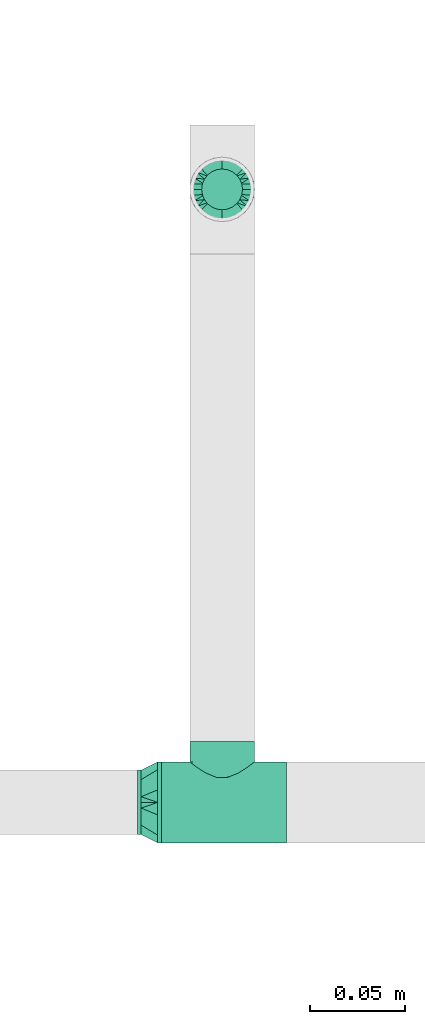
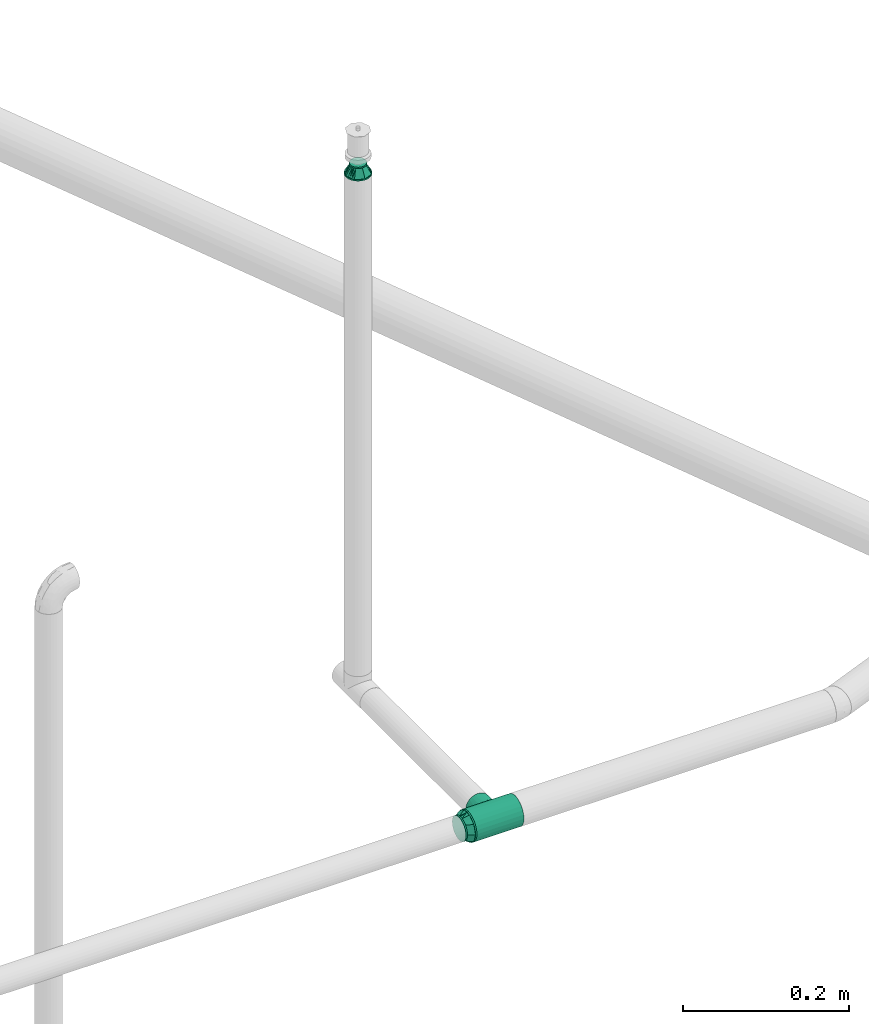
# One storey, part 33 of 94: 3 flow fittings.
"""IFC2X3 building model written with IfcOpenShell, lengths in millimetres."""

from ifc_helpers import new_model, entity, si_unit, converted_unit, derived_unit, direction, frame, origin_with_axes, place, context, subcontext, project, spatial, open_shell, surface_model, source, transform, mapped, type_object, element, save


model = new_model("IFC2X3")

# Units and contexts
model_context = context("Model", 3, precision=0.01, world=frame((0.0, 4.29681676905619e-09, 0.0)), true_north=direction((4.01073788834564e-13, 1.0)))
plan_context = context("Plan", 3, precision=0.01, world=frame((0.0, 4.29681676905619e-09, 0.0)), true_north=direction((4.01073788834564e-13, 1.0)))
body_context = subcontext(model_context, "Body", "Model", "MODEL_VIEW")
ifc_project = project(units=[converted_unit("PLANEANGLEUNIT", "DEGREE", entity("IfcPositiveLengthMeasure", 0.0174532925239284), si_unit("PLANEANGLEUNIT", "RADIAN"), dimensions=[0, 0, 0, 0, 0, 0, 0]), si_unit("AREAUNIT", "SQUARE_METRE"), si_unit("LENGTHUNIT", "METRE", prefix="MILLI"), si_unit("MASSUNIT", "GRAM", prefix="KILO"), si_unit("POWERUNIT", "WATT"), si_unit("PRESSUREUNIT", "PASCAL", prefix="KILO"), si_unit("FORCEUNIT", "NEWTON", prefix="KILO"), si_unit("ELECTRICVOLTAGEUNIT", "VOLT"), si_unit("ELECTRICCURRENTUNIT", "AMPERE"), si_unit("THERMODYNAMICTEMPERATUREUNIT", "DEGREE_CELSIUS"), si_unit("TIMEUNIT", "SECOND"), si_unit("VOLUMEUNIT", "CUBIC_METRE"), derived_unit("LINEARVELOCITYUNIT", [(si_unit("LENGTHUNIT", "METRE"), 1), (si_unit("TIMEUNIT", "SECOND"), -1)]), derived_unit("VOLUMETRICFLOWRATEUNIT", [(si_unit("VOLUMEUNIT", "CUBIC_METRE"), 1), (si_unit("TIMEUNIT", "SECOND"), -1)]), derived_unit("THERMALTRANSMITTANCEUNIT", [(si_unit("POWERUNIT", "WATT"), 1), (si_unit("THERMODYNAMICTEMPERATUREUNIT", "KELVIN"), -1), (si_unit("AREAUNIT", "SQUARE_METRE"), -1)]), derived_unit("SOUNDPRESSUREUNIT", [(si_unit("PRESSUREUNIT", "PASCAL"), 1)])], contexts=[model_context, plan_context])

# Site, building, storey
site_placement = place(None, frame((0.0, -4.29681676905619e-09, 0.0), z_axis=(0.0, 0.0, 1.0), x_axis=(1.0, 0.0, 0.0)))
site = spatial("IfcSite", under=ifc_project, at=site_placement, CompositionType="ELEMENT")
building_placement = place(site_placement, frame((0.0, 4.29681676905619e-09, 0.0), z_axis=(0.0, 0.0, 1.0), x_axis=(1.0, 0.0, 0.0)))
building = spatial("IfcBuilding", under=site, at=building_placement, Name="mc-building", CompositionType="ELEMENT")
storey_placement = place(building_placement, frame((0.0, 0.0, 210900.0), z_axis=(0.0, 0.0, 1.0), x_axis=(1.0, 0.0, 0.0)))
storey = spatial("IfcBuildingStorey", under=building, at=storey_placement, Name="Nivå F", CompositionType="ELEMENT", Elevation=210900.0)

# Flow fittings
pipe_fitting_type_1 = type_object("IfcPipeFittingType", Name="magi_pipe_fe_tee_centric_90_NOR", PredefinedType="JUNCTION")
shared_shape_1 = source(origin_with_axes(), body_context, "Body", "SurfaceModel", [
    surface_model("IfcShellBasedSurfaceModel", [(-33.8, 0.0, -21.2), (-33.8, -5.48696, -20.47763), (-33.8, 5.48696, -20.47763), (-33.8, 10.6, -18.35974), (-33.8, 14.99066, -14.99066), (-33.8, -20.47763, 5.48696), (-33.8, 18.35974, -10.6), (-33.8, 10.6, 18.35974), (-33.8, -14.99066, -14.99066), (-33.8, -18.35974, -10.6), (-33.8, -10.6, -18.35974), (-33.8, -20.47763, -5.48696), (-33.8, -21.2, 0.0), (-33.8, 18.35974, 10.6), (-33.8, 20.47763, -5.48696), (-33.8, 20.47763, 5.48696), (-33.8, 21.2, 0.0), (-33.8, 14.99066, 14.99066), (-33.8, 5.48696, 20.47763), (-33.8, 0.0, 21.2), (-33.8, -18.35974, 10.6), (-33.8, -14.99066, 14.99066), (-33.8, -10.6, 18.35974), (-33.8, -5.48696, 20.47763), (33.8, 5.48696, -20.47763), (33.8, -5.48696, -20.47763), (33.8, 0.0, -21.2), (33.8, 14.99066, -14.99066), (33.8, 10.6, -18.35974), (33.8, 18.35974, -10.6), (33.8, 20.47763, -5.48696), (33.8, -21.2, 0.0), (33.8, -10.6, -18.35974), (33.8, -18.35974, -10.6), (33.8, -14.99066, -14.99066), (33.8, -20.47763, -5.48696), (33.8, -20.47763, 5.48696), (33.8, 21.2, 0.0), (33.8, 20.47763, 5.48696), (33.8, 18.35974, 10.6), (33.8, 10.6, 18.35974), (33.8, 14.99066, 14.99066), (33.8, 0.0, 21.2), (33.8, 5.48696, 20.47763), (33.8, -14.99066, 14.99066), (33.8, -18.35974, 10.6), (33.8, -10.6, 18.35974), (33.8, -5.48696, 20.47763), (16.9, -21.2, 0.0), (15.78624, -20.32327, 6.03364), (12.81343, -18.11115, 11.01935), (8.52479, -15.37862, 14.59239), (3.07939, -13.16482, 16.61708), (-16.9, -21.2, 0.0), (-15.78686, -20.32375, 6.032), (-8.52604, -15.37932, 14.59166), (-3.0848, -13.16609, 16.61608), (-12.81602, -18.11299, 11.01634), (3.07939, -13.16482, -16.61708), (12.81343, -18.11115, -11.01935), (8.52479, -15.37862, -14.59239), (15.78624, -20.32327, -6.03364), (-3.0848, -13.16609, -16.61608), (-8.52604, -15.37932, -14.59166), (-12.81602, -18.11299, -11.01634), (-15.78686, -20.32375, -6.032), (4.37404, -31.8, -16.32415), (-16.9, -31.8, 0.0), (0.0, -31.8, -16.9), (14.63583, -31.8, -8.45), (8.45, -31.8, -14.63583), (16.32415, -31.8, -4.37404), (11.9501, -31.8, -11.9501), (-11.9501, -31.8, -11.9501), (-8.45, -31.8, -14.63583), (-4.37404, -31.8, -16.32415), (-14.63583, -31.8, -8.45), (-16.32415, -31.8, -4.37404), (16.9, -31.8, 0.0), (8.45, -31.8, 14.63583), (16.32415, -31.8, 4.37404), (14.63583, -31.8, 8.45), (-8.45, -31.8, 14.63583), (11.9501, -31.8, 11.9501), (4.37404, -31.8, 16.32415), (-16.32415, -31.8, 4.37404), (-11.9501, -31.8, 11.9501), (-14.63583, -31.8, 8.45), (0.0, -31.8, 16.9), (-4.37404, -31.8, 16.32415), (-16.34343, -20.76188, 3.016), (16.34312, -20.76163, 3.01682), (-0.00271, -13.16546, 16.61658), (16.34312, -20.76163, -3.01682), (-0.00271, -13.16546, -16.61658), (-16.34343, -20.76188, -3.016)], [open_shell([[[0, 1, 2]], [[3, 2, 4]], [[5, 2, 1]], [[4, 2, 6]], [[6, 2, 7]], [[8, 9, 10]], [[1, 10, 9]], [[9, 11, 1]], [[12, 1, 11]], [[5, 1, 12]], [[13, 14, 6]], [[13, 15, 16]], [[6, 7, 13]], [[5, 7, 2]], [[17, 13, 7]], [[18, 7, 19]], [[20, 21, 5]], [[22, 5, 21]], [[23, 19, 22]], [[7, 5, 22]], [[22, 19, 7]], [[16, 14, 13]], [[24, 25, 26]], [[27, 24, 28]], [[29, 30, 24]], [[29, 24, 27]], [[31, 24, 30]], [[32, 33, 34]], [[33, 32, 25]], [[33, 31, 35]], [[31, 33, 25]], [[25, 24, 31]], [[30, 36, 31]], [[37, 38, 39]], [[37, 39, 40]], [[37, 40, 36]], [[40, 39, 41]], [[42, 40, 43]], [[36, 44, 45]], [[44, 36, 46]], [[46, 42, 47]], [[46, 36, 40]], [[40, 42, 46]], [[37, 36, 30]], [[31, 36, 48]], [[49, 48, 36]], [[36, 45, 49]], [[45, 44, 50]], [[51, 50, 44]], [[52, 51, 44]], [[44, 46, 52]], [[45, 50, 49]], [[53, 54, 5]], [[5, 12, 53]], [[54, 20, 5]], [[55, 56, 21]], [[20, 57, 21]], [[57, 20, 54]], [[21, 57, 55]], [[56, 22, 21]], [[52, 22, 56]], [[19, 47, 42]], [[23, 46, 47]], [[18, 42, 43]], [[39, 38, 15]], [[17, 40, 41]], [[13, 41, 39]], [[43, 40, 7]], [[16, 38, 37]], [[22, 46, 23]], [[23, 47, 19]], [[18, 19, 42]], [[43, 7, 18]], [[7, 40, 17]], [[13, 17, 41]], [[15, 13, 39]], [[38, 16, 15]], [[46, 22, 52]], [[6, 30, 29]], [[14, 37, 30]], [[4, 29, 27]], [[26, 25, 1]], [[2, 28, 24]], [[0, 24, 26]], [[27, 28, 3]], [[10, 25, 32]], [[16, 37, 14]], [[14, 30, 6]], [[4, 6, 29]], [[27, 3, 4]], [[3, 28, 2]], [[0, 2, 24]], [[1, 0, 26]], [[25, 10, 1]], [[32, 58, 10]], [[34, 59, 60]], [[59, 34, 33]], [[60, 58, 34]], [[34, 58, 32]], [[35, 31, 48]], [[35, 61, 33]], [[61, 35, 48]], [[33, 61, 59]], [[62, 63, 8]], [[8, 64, 9]], [[64, 8, 63]], [[62, 8, 10]], [[65, 53, 11]], [[65, 11, 9]], [[11, 53, 12]], [[65, 9, 64]], [[58, 62, 10]], [[66, 67, 68]], [[69, 66, 70]], [[69, 71, 66]], [[69, 70, 72]], [[67, 66, 71]], [[68, 73, 74]], [[74, 75, 68]], [[76, 67, 77]], [[73, 68, 76]], [[67, 76, 68]], [[71, 78, 67]], [[79, 78, 80]], [[79, 80, 81]], [[82, 67, 79]], [[79, 81, 83]], [[82, 79, 84]], [[85, 86, 87]], [[86, 85, 82]], [[82, 88, 89]], [[85, 67, 82]], [[84, 88, 82]], [[79, 67, 78]], [[85, 90, 67]], [[57, 87, 86]], [[85, 87, 54]], [[86, 82, 55]], [[85, 54, 90]], [[90, 53, 67]], [[54, 87, 57]], [[91, 49, 80]], [[55, 89, 56]], [[55, 57, 86]], [[88, 52, 92]], [[55, 82, 89]], [[52, 88, 84]], [[79, 51, 84]], [[50, 83, 81]], [[83, 51, 79]], [[81, 80, 49]], [[83, 50, 51]], [[51, 52, 84]], [[78, 91, 80]], [[49, 50, 81]], [[91, 78, 48]], [[88, 56, 89]], [[92, 56, 88]], [[71, 93, 78]], [[59, 69, 72]], [[71, 69, 61]], [[72, 70, 60]], [[93, 48, 78]], [[61, 69, 59]], [[60, 66, 58]], [[60, 59, 72]], [[68, 62, 94]], [[60, 70, 66]], [[95, 67, 53]], [[95, 65, 77]], [[71, 61, 93]], [[75, 62, 68]], [[65, 76, 77]], [[73, 76, 64]], [[68, 58, 66]], [[75, 63, 62]], [[63, 75, 74]], [[74, 73, 63]], [[63, 73, 64]], [[64, 76, 65]], [[67, 95, 77]], [[94, 58, 68]]])]),
])
flow_fitting_1_placement = place(storey_placement, frame((719215.77033, 437906.03424, 3600.0), z_axis=(0.0, 0.0, -1.0), x_axis=(1.0, 0.0, 0.0)))
element("IfcFlowFitting", 1, at=flow_fitting_1_placement, inside=storey, type_object=pipe_fitting_type_1, Name="magi_pipe_fe_tee_centric_90_NOR", context=body_context, shape_type="MappedRepresentation", body=[
    mapped(shared_shape_1, transform((0.0, 0.0, 0.0), scale=1.0)),
])
pipe_fitting_type_2 = type_object("IfcPipeFittingType", Name="magi_pipe_fe_reducer_centric_short_NOR", PredefinedType="TRANSITION")
shared_shape_2 = source(origin_with_axes(), body_context, "Body", "SurfaceModel", [
    surface_model("IfcShellBasedSurfaceModel", [(-2.0, -10.6, -18.35974), (-2.0, 0.0, -21.2), (-2.0, -5.48696, -20.47763), (-2.0, 5.48696, -20.47763), (-2.0, 10.6, -18.35974), (8.6, -11.9501, -11.9501), (8.6, -11.9501, 11.9501), (8.6, -16.9, 0.0), (8.6, 11.9501, -11.9501), (8.6, 16.9, 0.0), (8.6, 0.0, -16.9), (0.0, 17.15116, 12.46105), (0.0, 6.55116, -20.1624), (0.0, -21.2, 0.0), (0.0, -6.55116, -20.1624), (0.0, -17.15116, -12.46105), (8.6, 2.98753, -15.66253), (0.0, 0.0, -20.1624), (0.0, -11.85116, -16.31172), (8.6, -2.98753, -15.66253), (8.6, 8.96258, -13.18758), (8.6, 5.97505, -14.42505), (0.0, 11.85116, -16.31172), (8.6, -5.97505, -14.42505), (8.6, -13.18758, -8.96258), (8.6, -8.96258, -13.18758), (0.0, -6.55116, 20.1624), (8.6, -2.98753, 15.66253), (0.0, 0.0, 20.1624), (8.6, 11.9501, 11.9501), (0.0, 11.85116, 16.31172), (8.6, 2.98753, 15.66253), (0.0, 6.55116, 20.1624), (8.6, -8.96258, 13.18758), (8.6, -5.97505, 14.42505), (0.0, -11.85116, 16.31172), (8.6, 5.97505, 14.42505), (8.6, 13.18758, 8.96258), (8.6, 8.96258, 13.18758), (10.6, 4.37404, -16.32415), (10.6, 8.45, -14.63583), (10.6, 11.9501, -11.9501), (10.6, -8.45, -14.63583), (10.6, 16.32415, -4.37404), (10.6, 16.32415, 4.37404), (10.6, 14.63583, -8.45), (10.6, 0.0, -16.9), (10.6, -4.37404, -16.32415), (10.6, -11.9501, -11.9501), (10.6, -16.32415, -4.37404), (10.6, -14.63583, -8.45), (10.6, -16.32415, 4.37404), (10.6, 16.9, 0.0), (10.6, 14.63583, 8.45), (10.6, 11.9501, 11.9501), (10.6, 4.37404, 16.32415), (10.6, 8.45, 14.63583), (10.6, 0.0, 16.9), (10.6, -14.63583, 8.45), (10.6, -16.9, 0.0), (10.6, -8.45, 14.63583), (10.6, -11.9501, 11.9501), (10.6, -4.37404, 16.32415), (8.6, 4.37404, 16.32415), (8.6, -14.63583, 8.45), (8.6, 0.0, 16.9), (8.6, 16.32415, 4.37404), (8.6, 8.45, 14.63583), (8.6, 14.63583, 8.45), (8.6, -8.45, 14.63583), (8.6, -4.37404, 16.32415), (8.6, -16.32415, 4.37404), (8.6, -16.32415, -4.37404), (8.6, -8.45, -14.63583), (8.6, 16.32415, -4.37404), (8.6, 14.63583, -8.45), (8.6, 8.45, -14.63583), (8.6, 4.37404, -16.32415), (8.6, -14.63583, -8.45), (8.6, -4.37404, -16.32415), (-2.0, 0.0, 21.2), (-2.0, 5.48696, 20.47763), (-2.0, 10.6, 18.35974), (-2.0, 14.99066, 14.99066), (-2.0, 18.35974, 10.6), (-2.0, 20.47763, 5.48696), (-2.0, -21.2, 0.0), (-2.0, -14.99066, -14.99066), (-2.0, -5.48696, 20.47763), (-2.0, -14.99066, 14.99066), (-2.0, -10.6, 18.35974), (-2.0, -18.35974, 10.6), (-2.0, -20.47763, 5.48696), (-2.0, 20.47763, -5.48696), (-2.0, 14.99066, -14.99066), (-2.0, 18.35974, -10.6), (-2.0, -18.35974, -10.6), (-2.0, -20.47763, -5.48696), (-2.0, 21.2, 0.0), (0.0, 10.6, -18.35974), (0.0, 0.0, -21.2), (0.0, 5.48696, -20.47763), (0.0, 20.47763, -5.48696), (0.0, 14.99066, -14.99066), (0.0, -14.99066, -14.99066), (0.0, 18.35974, -10.6), (0.0, -10.6, -18.35974), (0.0, -5.48696, -20.47763), (0.0, -18.35974, -10.6), (0.0, -20.47763, -5.48696), (0.0, -18.35974, 10.6), (0.0, 21.2, 0.0), (0.0, 20.47763, 5.48696), (0.0, 18.35974, 10.6), (0.0, 14.99066, 14.99066), (0.0, 0.0, 21.2), (0.0, 10.6, 18.35974), (0.0, 5.48696, 20.47763), (0.0, -14.99066, 14.99066), (0.0, -20.47763, 5.48696), (0.0, -5.48696, 20.47763), (0.0, -10.6, 18.35974), (0.0, -17.15116, 12.46105), (0.0, 17.15116, -12.46105), (0.0, 14.50116, -14.38638), (8.6, -14.42505, -5.97505), (0.0, -19.17558, -6.23052), (0.0, -18.16337, -9.34579), (8.6, 14.42505, -5.97505), (0.0, 19.17558, -6.23052), (8.6, 13.18758, -8.96258), (8.6, 15.66253, -2.98753), (8.6, -15.66253, -2.98753), (0.0, -14.50116, 14.38638), (8.6, 14.42505, 5.97505), (0.0, 19.17558, 6.23052), (0.0, 18.16337, 9.34579), (8.6, -14.42505, 5.97505), (0.0, -19.17558, 6.23052), (8.6, -13.18758, 8.96258), (8.6, -15.66253, 2.98753), (8.6, 15.66253, 2.98753)], [open_shell([[[0, 1, 2]], [[3, 1, 4]], [[5, 6, 7]], [[8, 9, 10]], [[11, 12, 13]], [[13, 12, 14]], [[13, 14, 15]], [[12, 16, 17]], [[5, 15, 18]], [[17, 19, 14]], [[20, 21, 22]], [[19, 23, 14]], [[12, 21, 16]], [[15, 5, 24]], [[25, 5, 18]], [[22, 8, 20]], [[26, 27, 28]], [[29, 11, 30]], [[28, 31, 32]], [[33, 34, 35]], [[31, 36, 32]], [[26, 34, 27]], [[11, 29, 37]], [[38, 29, 30]], [[35, 6, 33]], [[39, 40, 41]], [[42, 39, 41]], [[41, 43, 44]], [[43, 41, 45]], [[41, 44, 42]], [[46, 42, 47]], [[46, 39, 42]], [[48, 49, 50]], [[49, 48, 42]], [[42, 51, 49]], [[44, 43, 52]], [[44, 53, 54]], [[44, 54, 55]], [[55, 51, 42]], [[55, 54, 56]], [[51, 55, 57]], [[57, 58, 51]], [[59, 49, 51]], [[58, 60, 61]], [[58, 57, 60]], [[60, 57, 62]], [[42, 44, 55]], [[63, 64, 65]], [[66, 63, 67]], [[29, 68, 66]], [[29, 66, 67]], [[64, 63, 66]], [[69, 64, 6]], [[69, 70, 65]], [[65, 64, 69]], [[71, 64, 66]], [[71, 72, 7]], [[71, 66, 73]], [[66, 74, 8]], [[8, 74, 75]], [[8, 76, 77]], [[73, 66, 8]], [[77, 10, 8]], [[72, 5, 78]], [[5, 72, 73]], [[73, 10, 79]], [[72, 71, 73]], [[8, 10, 73]], [[74, 66, 9]], [[72, 49, 7]], [[78, 50, 72]], [[42, 5, 73]], [[78, 5, 48]], [[47, 73, 79]], [[72, 50, 49]], [[49, 59, 7]], [[47, 42, 73]], [[48, 5, 42]], [[48, 50, 78]], [[46, 47, 79]], [[79, 10, 46]], [[77, 39, 10]], [[76, 40, 77]], [[45, 8, 75]], [[76, 8, 41]], [[43, 75, 74]], [[76, 41, 40]], [[40, 39, 77]], [[52, 43, 74]], [[45, 75, 43]], [[45, 41, 8]], [[9, 52, 74]], [[10, 39, 46]], [[66, 44, 9]], [[68, 53, 66]], [[56, 29, 67]], [[68, 29, 54]], [[55, 67, 63]], [[66, 53, 44]], [[44, 52, 9]], [[55, 56, 67]], [[54, 29, 56]], [[54, 53, 68]], [[57, 55, 63]], [[63, 65, 57]], [[70, 62, 65]], [[69, 60, 70]], [[58, 6, 64]], [[69, 6, 61]], [[51, 64, 71]], [[69, 61, 60]], [[60, 62, 70]], [[59, 51, 71]], [[58, 64, 51]], [[58, 61, 6]], [[7, 59, 71]], [[65, 62, 57]], [[80, 81, 82]], [[80, 82, 83]], [[83, 84, 85]], [[83, 85, 80]], [[86, 80, 87]], [[88, 89, 90]], [[88, 80, 89]], [[91, 86, 92]], [[89, 80, 91]], [[80, 86, 91]], [[80, 85, 87]], [[85, 93, 4]], [[94, 93, 95]], [[87, 85, 4]], [[4, 93, 94]], [[86, 96, 97]], [[87, 96, 86]], [[0, 87, 4]], [[1, 0, 4]], [[93, 85, 98]], [[99, 100, 101]], [[102, 99, 103]], [[13, 104, 99]], [[102, 103, 105]], [[102, 13, 99]], [[100, 106, 107]], [[100, 99, 106]], [[108, 13, 109]], [[106, 99, 104]], [[108, 104, 13]], [[110, 102, 111]], [[112, 113, 114]], [[112, 114, 115]], [[116, 117, 115]], [[116, 115, 114]], [[112, 115, 118]], [[13, 110, 119]], [[102, 110, 13]], [[118, 120, 121]], [[110, 112, 118]], [[115, 120, 118]], [[110, 111, 112]], [[97, 109, 86]], [[96, 108, 97]], [[106, 87, 0]], [[96, 87, 104]], [[107, 0, 2]], [[97, 108, 109]], [[109, 13, 86]], [[107, 106, 0]], [[104, 87, 106]], [[104, 108, 96]], [[100, 107, 2]], [[2, 1, 100]], [[3, 101, 1]], [[4, 99, 3]], [[105, 94, 95]], [[4, 94, 103]], [[102, 95, 93]], [[4, 103, 99]], [[99, 101, 3]], [[111, 102, 93]], [[105, 95, 102]], [[105, 103, 94]], [[98, 111, 93]], [[1, 101, 100]], [[85, 112, 98]], [[84, 113, 85]], [[116, 83, 82]], [[84, 83, 114]], [[117, 82, 81]], [[85, 113, 112]], [[112, 111, 98]], [[117, 116, 82]], [[114, 83, 116]], [[114, 113, 84]], [[115, 117, 81]], [[81, 80, 115]], [[88, 120, 80]], [[90, 121, 88]], [[110, 89, 91]], [[90, 89, 118]], [[119, 91, 92]], [[90, 118, 121]], [[121, 120, 88]], [[13, 119, 92]], [[110, 91, 119]], [[110, 118, 89]], [[86, 13, 92]], [[80, 120, 115]], [[65, 6, 29]], [[9, 29, 6]], [[6, 10, 9]], [[10, 6, 5]], [[32, 11, 122]], [[32, 122, 26]], [[122, 11, 13]], [[12, 11, 123]], [[123, 11, 111]], [[8, 22, 124]], [[125, 126, 127]], [[22, 21, 12]], [[8, 124, 123]], [[128, 123, 129]], [[17, 16, 10]], [[123, 128, 130]], [[111, 131, 129]], [[13, 132, 7]], [[18, 23, 25]], [[13, 126, 132]], [[19, 17, 10]], [[131, 111, 9]], [[125, 132, 126]], [[15, 24, 127]], [[24, 125, 127]], [[8, 123, 130]], [[23, 18, 14]], [[131, 128, 129]], [[6, 35, 133]], [[134, 135, 136]], [[35, 34, 26]], [[6, 133, 122]], [[137, 122, 138]], [[28, 27, 65]], [[122, 137, 139]], [[13, 140, 138]], [[111, 141, 9]], [[30, 36, 38]], [[111, 135, 141]], [[31, 28, 65]], [[140, 13, 7]], [[134, 141, 135]], [[11, 37, 136]], [[37, 134, 136]], [[6, 122, 139]], [[36, 30, 32]], [[140, 137, 138]]])]),
])
flow_fitting_2_placement = place(storey_placement, frame((719181.97033, 437906.03424, 3600.0), z_axis=(0.0, 0.0, 1.0), x_axis=(-1.0, 0.0, 0.0)))
element("IfcFlowFitting", 2, at=flow_fitting_2_placement, inside=storey, type_object=pipe_fitting_type_2, Name="magi_pipe_fe_reducer_centric_short_NOR", context=body_context, shape_type="MappedRepresentation", body=[
    mapped(shared_shape_2, transform((0.0, 0.0, 0.0), scale=1.0)),
])
shared_shape_3 = source(origin_with_axes(), body_context, "Body", "SurfaceModel", [
    surface_model("IfcShellBasedSurfaceModel", [(14.4, 5.35, -9.26647), (14.4, 0.0, -10.7), (14.4, 2.76936, -10.33541), (14.4, 10.33541, -2.76936), (14.4, 7.56604, -7.56604), (14.4, -10.33541, -2.76936), (14.4, 9.26647, -5.35), (14.4, 0.0, 10.7), (14.4, -5.35, -9.26647), (14.4, -2.76936, -10.33541), (14.4, -7.56604, -7.56604), (14.4, -9.26647, -5.35), (14.4, 10.7, 0.0), (14.4, 10.33541, 2.76936), (14.4, 9.26647, 5.35), (14.4, 7.56604, 7.56604), (14.4, 2.76936, 10.33541), (14.4, 5.35, 9.26647), (14.4, -10.33541, 2.76936), (14.4, -7.56604, 7.56604), (14.4, -9.26647, 5.35), (14.4, -10.7, 0.0), (14.4, -2.76936, 10.33541), (14.4, -5.35, 9.26647), (12.4, 2.76936, 10.33541), (12.4, -10.33541, -2.76936), (12.4, 0.0, 10.7), (12.4, 5.35, 9.26647), (12.4, 7.56604, 7.56604), (12.4, 9.26647, 5.35), (12.4, 10.33541, 2.76936), (12.4, -10.33541, 2.76936), (12.4, -2.76936, 10.33541), (12.4, -7.56604, 7.56604), (12.4, -5.35, 9.26647), (12.4, -9.26647, 5.35), (12.4, -10.7, 0.0), (12.4, 10.33541, -2.76936), (12.4, 5.35, -9.26647), (12.4, 9.26647, -5.35), (12.4, 7.56604, -7.56604), (12.4, 2.76936, -10.33541), (12.4, -9.26647, -5.35), (12.4, -5.35, -9.26647), (12.4, -7.56604, -7.56604), (12.4, 0.0, -10.7), (12.4, -2.76936, -10.33541), (12.4, 10.7, 0.0), (-2.0, 11.9501, 11.9501), (-2.0, 0.0, 16.9), (-2.0, 4.37404, 16.32415), (-2.0, 8.45, 14.63583), (-2.0, 14.63583, 8.45), (-2.0, 16.32415, 4.37404), (-2.0, -16.32415, 4.37404), (-2.0, -8.45, 14.63583), (-2.0, -14.63583, 8.45), (-2.0, -11.9501, 11.9501), (-2.0, -4.37404, 16.32415), (-2.0, -16.32415, -4.37404), (-2.0, -16.9, 0.0), (-2.0, -8.45, -14.63583), (-2.0, 16.32415, -4.37404), (-2.0, 11.9501, -11.9501), (-2.0, 14.63583, -8.45), (-2.0, 8.45, -14.63583), (-2.0, 4.37404, -16.32415), (-2.0, 0.0, -16.9), (-2.0, -11.9501, -11.9501), (-2.0, -14.63583, -8.45), (-2.0, -4.37404, -16.32415), (-2.0, 16.9, 0.0), (0.0, 4.37404, -16.32415), (0.0, 8.45, -14.63583), (0.0, 11.9501, -11.9501), (0.0, 0.0, -16.9), (0.0, 16.32415, -4.37404), (0.0, 16.32415, 4.37404), (0.0, 14.63583, -8.45), (0.0, -8.45, -14.63583), (0.0, -4.37404, -16.32415), (0.0, -11.9501, -11.9501), (0.0, -16.32415, -4.37404), (0.0, -14.63583, -8.45), (0.0, -16.32415, 4.37404), (0.0, 16.9, 0.0), (0.0, 14.63583, 8.45), (0.0, 11.9501, 11.9501), (0.0, 4.37404, 16.32415), (0.0, 8.45, 14.63583), (0.0, 0.0, 16.9), (0.0, -14.63583, 8.45), (0.0, -16.9, 0.0), (0.0, -8.45, 14.63583), (0.0, -11.9501, 11.9501), (0.0, -4.37404, 16.32415), (12.4, 9.3625, -2.31662), (0.0, 14.42505, -5.97505), (0.0, 15.66253, -2.98753), (12.4, -6.6875, -6.94985), (0.0, -13.18758, -8.96258), (0.0, 2.98753, -15.66253), (12.4, 0.0, -9.26647), (12.4, 6.6875, -6.94985), (0.0, 8.96258, -13.18758), (12.4, -9.3625, -2.31662), (0.0, -15.66253, -2.98753), (0.0, -14.42505, -5.97505), (0.0, 5.97505, -14.42505), (0.0, -2.98753, -15.66253), (0.0, -8.96258, -13.18758), (0.0, 13.18758, -8.96258), (12.4, 8.025, -4.63324), (12.4, -2.675, -9.26647), (12.4, 2.675, -9.26647), (0.0, -5.97505, -14.42505), (12.4, -8.025, -4.63324), (12.4, -9.3625, 2.31662), (0.0, -14.42505, 5.97505), (0.0, -15.66253, 2.98753), (12.4, 6.6875, 6.94985), (0.0, 13.18758, 8.96258), (0.0, -2.98753, 15.66253), (12.4, 0.0, 9.26647), (12.4, -6.6875, 6.94985), (0.0, -8.96258, 13.18758), (12.4, 9.3625, 2.31662), (0.0, 15.66253, 2.98753), (0.0, 14.42505, 5.97505), (0.0, -5.97505, 14.42505), (0.0, 2.98753, 15.66253), (0.0, 8.96258, 13.18758), (0.0, -13.18758, 8.96258), (12.4, -8.025, 4.63324), (12.4, 2.675, 9.26647), (12.4, -2.675, 9.26647), (0.0, 5.97505, 14.42505), (12.4, 8.025, 4.63324)], [open_shell([[[0, 1, 2]], [[3, 0, 4]], [[5, 0, 3]], [[3, 4, 6]], [[7, 5, 3]], [[1, 8, 9]], [[1, 0, 8]], [[10, 5, 11]], [[5, 10, 8]], [[0, 5, 8]], [[3, 12, 13]], [[13, 14, 15]], [[13, 15, 16]], [[7, 3, 16]], [[16, 15, 17]], [[7, 18, 5]], [[18, 19, 20]], [[21, 5, 18]], [[19, 22, 23]], [[22, 19, 18]], [[7, 22, 18]], [[13, 16, 3]], [[24, 25, 26]], [[27, 25, 24]], [[28, 29, 30]], [[28, 25, 27]], [[31, 26, 25]], [[32, 33, 34]], [[33, 32, 31]], [[33, 31, 35]], [[32, 26, 31]], [[31, 25, 36]], [[30, 37, 28]], [[25, 28, 37]], [[38, 37, 39]], [[37, 38, 25]], [[38, 39, 40]], [[41, 25, 38]], [[42, 43, 44]], [[43, 42, 25]], [[43, 45, 46]], [[43, 25, 41]], [[41, 45, 43]], [[37, 30, 47]], [[25, 5, 36]], [[42, 11, 25]], [[8, 44, 43]], [[42, 44, 10]], [[9, 43, 46]], [[25, 11, 5]], [[5, 21, 36]], [[9, 8, 43]], [[10, 44, 8]], [[10, 11, 42]], [[1, 9, 46]], [[46, 45, 1]], [[41, 2, 45]], [[38, 0, 41]], [[6, 40, 39]], [[38, 40, 4]], [[3, 39, 37]], [[38, 4, 0]], [[0, 2, 41]], [[12, 3, 37]], [[6, 39, 3]], [[6, 4, 40]], [[47, 12, 37]], [[45, 2, 1]], [[30, 13, 47]], [[29, 14, 30]], [[17, 28, 27]], [[29, 28, 15]], [[16, 27, 24]], [[30, 14, 13]], [[13, 12, 47]], [[16, 17, 27]], [[15, 28, 17]], [[15, 14, 29]], [[7, 16, 24]], [[24, 26, 7]], [[32, 22, 26]], [[34, 23, 32]], [[20, 33, 35]], [[34, 33, 19]], [[18, 35, 31]], [[34, 19, 23]], [[23, 22, 32]], [[21, 18, 31]], [[20, 35, 18]], [[20, 19, 33]], [[36, 21, 31]], [[26, 22, 7]], [[48, 49, 50]], [[48, 50, 51]], [[48, 52, 53]], [[48, 53, 49]], [[49, 53, 54]], [[55, 56, 57]], [[55, 58, 49]], [[56, 55, 49]], [[49, 54, 56]], [[54, 59, 60]], [[54, 53, 61]], [[53, 62, 63]], [[63, 62, 64]], [[63, 65, 66]], [[61, 53, 63]], [[67, 63, 66]], [[59, 68, 69]], [[68, 59, 61]], [[61, 67, 70]], [[59, 54, 61]], [[63, 67, 61]], [[53, 71, 62]], [[72, 73, 74]], [[75, 72, 74]], [[74, 76, 77]], [[76, 74, 78]], [[74, 77, 79]], [[75, 79, 80]], [[75, 74, 79]], [[81, 82, 83]], [[82, 81, 79]], [[79, 84, 82]], [[77, 76, 85]], [[77, 86, 87]], [[77, 87, 88]], [[88, 84, 79]], [[88, 87, 89]], [[84, 88, 90]], [[90, 91, 84]], [[92, 82, 84]], [[91, 93, 94]], [[91, 90, 93]], [[93, 90, 95]], [[79, 77, 88]], [[59, 82, 60]], [[69, 83, 59]], [[79, 68, 61]], [[69, 68, 81]], [[80, 61, 70]], [[59, 83, 82]], [[82, 92, 60]], [[80, 79, 61]], [[81, 68, 79]], [[81, 83, 69]], [[75, 80, 70]], [[70, 67, 75]], [[66, 72, 67]], [[65, 73, 66]], [[78, 63, 64]], [[65, 63, 74]], [[76, 64, 62]], [[65, 74, 73]], [[73, 72, 66]], [[85, 76, 62]], [[78, 64, 76]], [[78, 74, 63]], [[71, 85, 62]], [[67, 72, 75]], [[53, 77, 71]], [[52, 86, 53]], [[89, 48, 51]], [[52, 48, 87]], [[88, 51, 50]], [[53, 86, 77]], [[77, 85, 71]], [[88, 89, 51]], [[87, 48, 89]], [[87, 86, 52]], [[90, 88, 50]], [[50, 49, 90]], [[58, 95, 49]], [[55, 93, 58]], [[91, 57, 56]], [[55, 57, 94]], [[84, 56, 54]], [[55, 94, 93]], [[93, 95, 58]], [[92, 84, 54]], [[91, 56, 84]], [[91, 94, 57]], [[60, 92, 54]], [[49, 95, 90]], [[27, 34, 47]], [[47, 34, 43]], [[43, 38, 47]], [[43, 34, 36]], [[90, 87, 94]], [[92, 94, 87]], [[87, 74, 92]], [[75, 92, 74]], [[81, 92, 75]], [[74, 87, 85]], [[96, 97, 98]], [[81, 99, 100]], [[101, 102, 75]], [[98, 85, 47]], [[74, 103, 104]], [[104, 103, 38]], [[105, 106, 107]], [[38, 108, 104]], [[102, 109, 75]], [[110, 99, 81]], [[47, 96, 98]], [[103, 111, 112]], [[109, 102, 113]], [[36, 92, 106]], [[102, 101, 114]], [[110, 115, 43]], [[96, 112, 97]], [[107, 116, 105]], [[36, 106, 105]], [[113, 115, 109]], [[43, 115, 113]], [[116, 107, 100]], [[108, 38, 114]], [[111, 103, 74]], [[111, 97, 112]], [[99, 110, 43]], [[116, 100, 99]], [[101, 108, 114]], [[117, 118, 119]], [[87, 120, 121]], [[122, 123, 90]], [[119, 92, 36]], [[94, 124, 125]], [[125, 124, 34]], [[126, 127, 128]], [[34, 129, 125]], [[123, 130, 90]], [[131, 120, 87]], [[36, 117, 119]], [[124, 132, 133]], [[130, 123, 134]], [[47, 85, 127]], [[123, 122, 135]], [[131, 136, 27]], [[117, 133, 118]], [[128, 137, 126]], [[47, 127, 126]], [[134, 136, 130]], [[27, 136, 134]], [[137, 128, 121]], [[129, 34, 135]], [[132, 124, 94]], [[132, 118, 133]], [[120, 131, 27]], [[137, 121, 120]], [[122, 129, 135]]])]),
])
flow_fitting_3_placement = place(storey_placement, frame((719215.77033, 438227.23424, 4357.64799999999), z_axis=(-1.0, 0.0, 0.0), x_axis=(0.0, 0.0, 1.0)))
element("IfcFlowFitting", 3, at=flow_fitting_3_placement, inside=storey, type_object=pipe_fitting_type_2, Name="magi_pipe_fe_reducer_centric_short_NOR", context=body_context, shape_type="MappedRepresentation", body=[
    mapped(shared_shape_3, transform((0.0, 0.0, 0.0), scale=1.0)),
])

save(model, "model.ifc")
